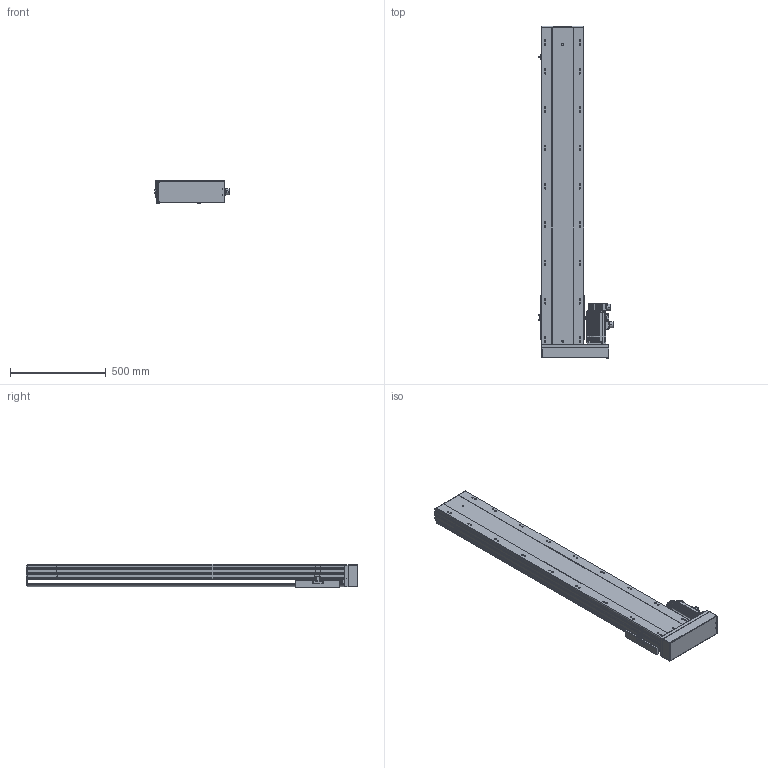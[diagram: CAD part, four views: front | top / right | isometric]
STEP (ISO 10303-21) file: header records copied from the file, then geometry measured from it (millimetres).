
FILE_DESCRIPTION (( 'STEP AP203' ), '1' );
FILE_NAME ('BTH22-L05-1350-BR-PCD115-M6-95.STEP', '2022-05-07T01:57:44', ( 'CXY' ), ( 'BT' ), 'SwSTEP 2.0', 'SolidWorks 2016', '' );
FILE_SCHEMA (( 'CONFIG_CONTROL_DESIGN' ));
Length unit declared in the file: millimetre
Products named in the file (7): BTH22-BR-04; BTH22-BR-06-H100; BTH22-L05-1350-BR-PCD115-M6-95; BTH22-BR-菁釱; BTH22-BR-HZ; PCD115; BTH22-BR-01
Assembly tree (8 placements, depth 2):
  BTH22-L05-1350-BR-PCD115-M6-95
    BTH22-BR-菁釱
    BTH22-BR-01
    BTH22-BR-04  x3
    BTH22-BR-HZ
    BTH22-BR-06-H100
    PCD115
Bounding box: 387.7 x 1732 x 122.7 mm (x, y, z)
Volume: 22791679.3 mm3; surface area: 3050422.8 mm2
Topology: 51 solids, 53 shells, 3104 faces, 7977 edges, 4972 vertices
Faces by surface type: cylinder 1380, plane 1232, bspline 387, cone 105
Entity records: 99649 total; most frequent: CARTESIAN_POINT 28097, ORIENTED_EDGE 14974, DIRECTION 14698, EDGE_CURVE 7487, AXIS2_PLACEMENT_3D 5390, VERTEX_POINT 4740, LINE 3918, VECTOR 3918
